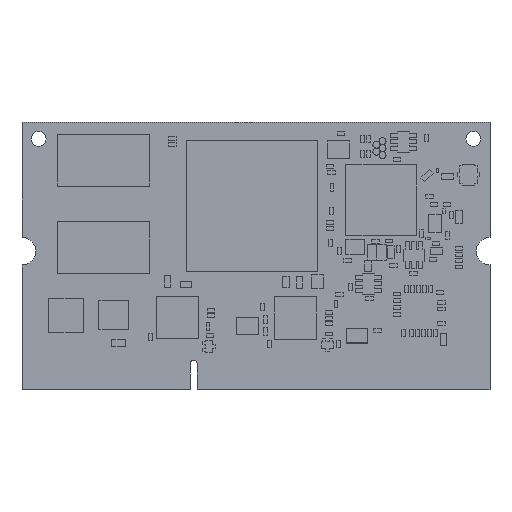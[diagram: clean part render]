
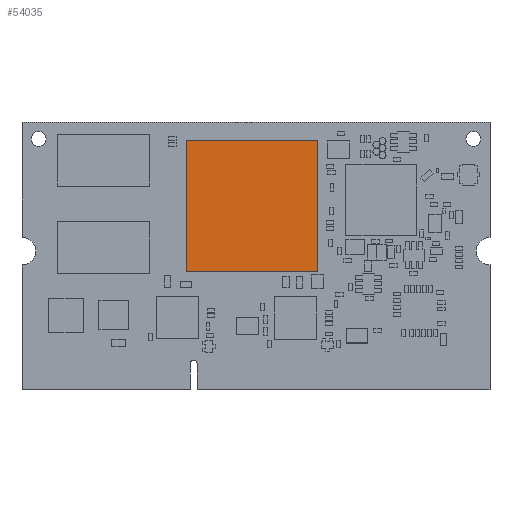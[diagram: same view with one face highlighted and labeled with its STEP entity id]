
A CAD part, top view. The second image highlights one B-rep face of the part: STEP entity #54035.
In plain terms, the highlighted planar face has unit normal (0, 0, 1).
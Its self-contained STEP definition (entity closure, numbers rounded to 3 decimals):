
#3603 = VERTEX_POINT ( 'NONE', #9538 ) ;
#3745 = ORIENTED_EDGE ( 'NONE', *, *, #50796, .T. ) ;
#5621 = LINE ( 'NONE', #75085, #85176 ) ;
#6552 = EDGE_CURVE ( 'NONE', #56575, #89518, #20682, .T. ) ;
#6898 = CARTESIAN_POINT ( 'NONE',  ( 0., 0., 2.4 ) ) ;
#9538 = CARTESIAN_POINT ( 'NONE',  ( 23.738, 36.037, 2.4 ) ) ;
#13062 = EDGE_LOOP ( 'NONE', ( #3745, #39892, #72743, #29486 ) ) ;
#19689 = CARTESIAN_POINT ( 'NONE',  ( 42.738, 17.036, 2.4 ) ) ;
#20173 = LINE ( 'NONE', #51197, #97205 ) ;
#20682 = LINE ( 'NONE', #19689, #99100 ) ;
#27208 = PLANE ( 'NONE',  #61600 ) ;
#29486 = ORIENTED_EDGE ( 'NONE', *, *, #67837, .T. ) ;
#34391 = DIRECTION ( 'NONE',  ( 1., 0., 0. ) ) ;
#39892 = ORIENTED_EDGE ( 'NONE', *, *, #40479, .T. ) ;
#40339 = CARTESIAN_POINT ( 'NONE',  ( 23.738, 17.036, 2.4 ) ) ;
#40479 = EDGE_CURVE ( 'NONE', #3603, #56575, #20173, .T. ) ;
#41462 = VECTOR ( 'NONE', #90335, 1000. ) ;
#45029 = DIRECTION ( 'NONE',  ( 0., 0., -1. ) ) ;
#50142 = VERTEX_POINT ( 'NONE', #86755 ) ;
#50796 = EDGE_CURVE ( 'NONE', #50142, #3603, #57954, .T. ) ;
#51197 = CARTESIAN_POINT ( 'NONE',  ( 23.738, 17.036, 2.4 ) ) ;
#51578 = DIRECTION ( 'NONE',  ( -1., 0., 0. ) ) ;
#52255 = DIRECTION ( 'NONE',  ( 0., 1., 0. ) ) ;
#54035 = ADVANCED_FACE ( 'NONE', ( #73907 ), #27208, .F. ) ;
#56575 = VERTEX_POINT ( 'NONE', #40339 ) ;
#57954 = LINE ( 'NONE', #58908, #41462 ) ;
#58908 = CARTESIAN_POINT ( 'NONE',  ( 23.738, 36.037, 2.4 ) ) ;
#61600 = AXIS2_PLACEMENT_3D ( 'NONE', #6898, #45029, #51578 ) ;
#67837 = EDGE_CURVE ( 'NONE', #89518, #50142, #5621, .T. ) ;
#72743 = ORIENTED_EDGE ( 'NONE', *, *, #6552, .T. ) ;
#73907 = FACE_OUTER_BOUND ( 'NONE', #13062, .T. ) ;
#75085 = CARTESIAN_POINT ( 'NONE',  ( 42.738, 36.037, 2.4 ) ) ;
#80147 = CARTESIAN_POINT ( 'NONE',  ( 42.738, 17.036, 2.4 ) ) ;
#81566 = DIRECTION ( 'NONE',  ( 0., -1., 0. ) ) ;
#85176 = VECTOR ( 'NONE', #52255, 1000. ) ;
#86755 = CARTESIAN_POINT ( 'NONE',  ( 42.738, 36.037, 2.4 ) ) ;
#89518 = VERTEX_POINT ( 'NONE', #80147 ) ;
#90335 = DIRECTION ( 'NONE',  ( -1., 0., 0. ) ) ;
#97205 = VECTOR ( 'NONE', #81566, 1000. ) ;
#99100 = VECTOR ( 'NONE', #34391, 1000. ) ;
